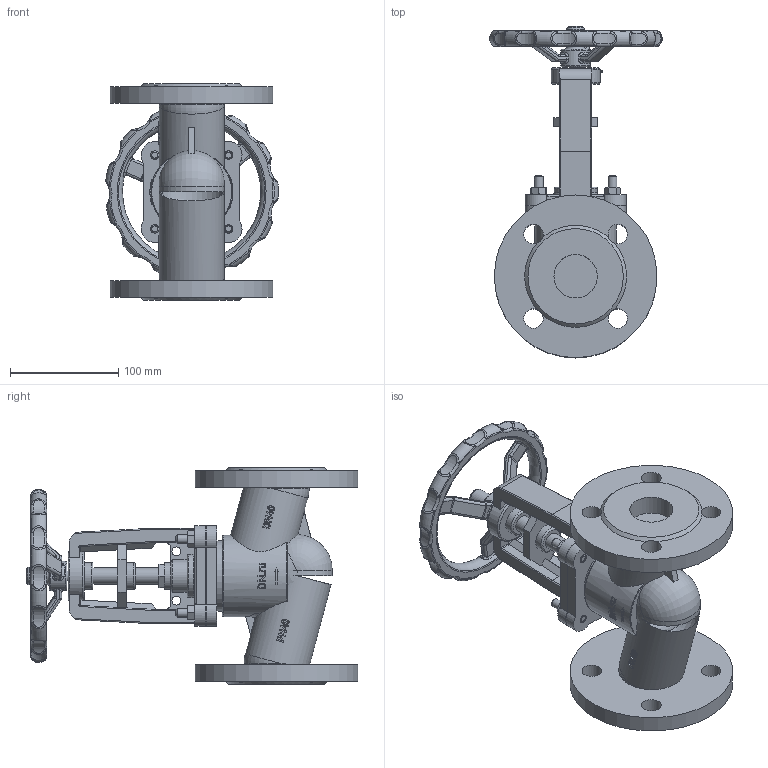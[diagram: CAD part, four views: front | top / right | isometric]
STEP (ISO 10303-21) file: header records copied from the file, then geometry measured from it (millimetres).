
FILE_DESCRIPTION(('STEP AP242'), '1');
FILE_NAME('VSO2130M-F-S 孰囡囗 玎镱痦 DN.ru 捏40 畜40', '2026-04-27T23:24:43', ('DN.ru'), (''), 'C3D Converter', 'C3D Toolkit', '');
FILE_SCHEMA(('AP242_MANAGED_MODEL_BASED_3D_ENGINEERING_MIM_LF { 1 0 10303 442 1 1 4 }'));
Length unit declared in the file: millimetre
Products named in the file (1): VSO2130M-F-S
Bounding box: 159.2 x 306.01 x 200 mm (x, y, z)
Volume: 1491370.3 mm3; surface area: 248215 mm2
Topology: 1 solids, 1 shells, 950 faces, 2424 edges, 1504 vertices
Faces by surface type: plane 287, extrusion 214, cylinder 188, torus 121, sphere 65, bspline 56, cone 19
Full cylindrical faces by diameter (mm): 0.5 x1, 1 x1, 2 x2, 8 x14, 10 x1, 15 x2, 16.26 x1, 18 x8, 20 x1, 25 x3, 27.1 x1, 40 x2, 60 x2, 65 x1, 75 x1, 150 x2
Entity records: 69444 total; most frequent: CARTESIAN_POINT 40515, ORIENTED_EDGE 4647, DIRECTION 3779, EDGE_CURVE 2324, VERTEX_POINT 1498, AXIS2_PLACEMENT_3D 1377, EDGE_LOOP 1111, VECTOR 1025
